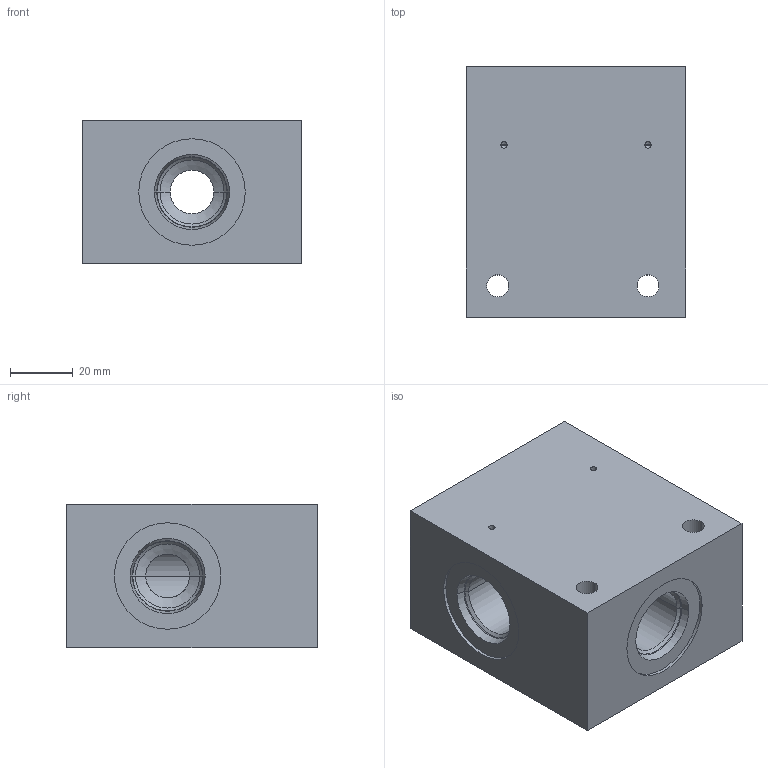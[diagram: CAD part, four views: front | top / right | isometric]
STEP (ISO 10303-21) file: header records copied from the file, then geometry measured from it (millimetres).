
FILE_DESCRIPTION((''),'2;1');
FILE_NAME('1000058808','2023-10-11T',('l.soukupova'),(''),'PRO/ENGINEER BY PARAMETRIC TECHNOLOGY CORPORATION, 2015440','PRO/ENGINEER BY PARAMETRIC TECHNOLOGY CORPORATION, 2015440','');
FILE_SCHEMA(('AUTOMOTIVE_DESIGN { 1 0 10303 214 1 1 1 1 }'));
Length unit declared in the file: millimetre
Products named in the file (1): 1000058808
Bounding box: 70 x 80 x 46 mm (x, y, z)
Volume: 217435.3 mm3; surface area: 36658.7 mm2
Topology: 1 solids, 5 shells, 88 faces, 326 edges, 279 vertices
Faces by surface type: cylinder 42, cone 32, plane 14
Entity records: 4606 total; most frequent: CARTESIAN_POINT 731, DIRECTION 620, ORIENTED_EDGE 376, PRESENTATION_STYLE_ASSIGNMENT 353, STYLED_ITEM 353, CURVE_STYLE 348, VECTOR 210, LINE 210
